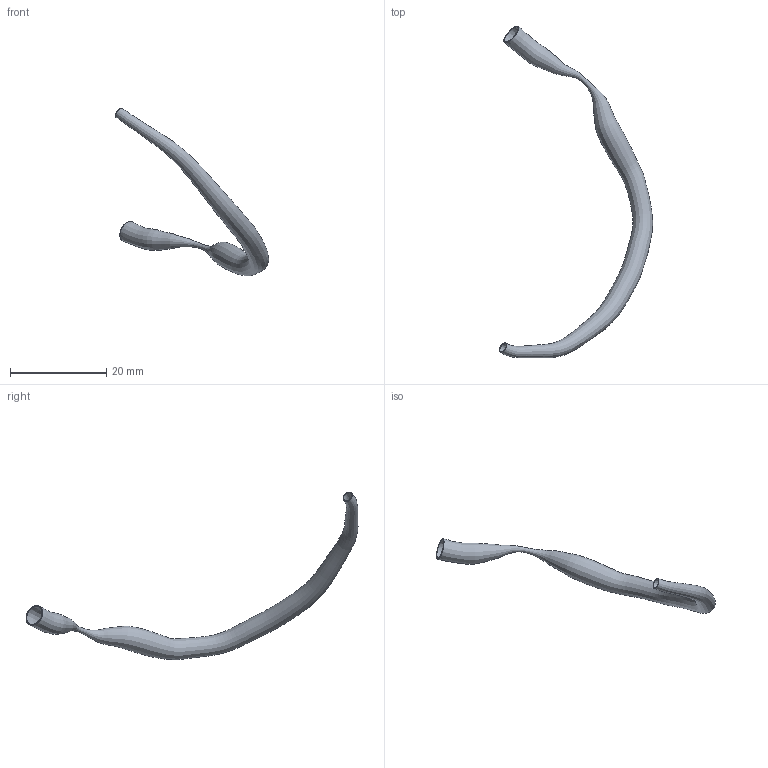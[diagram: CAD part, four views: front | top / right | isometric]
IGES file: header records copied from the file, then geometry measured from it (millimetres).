
Global section: file name: C:\Documents and Settings\Administrator\Desktop\FDA Bifurcation win\RawData_for_IGES\HRCA_Data\20000719.092552\IGES\20000719.092552.RCA.SEG.ED.igs; native system: Rhinoceros ( May 19 2006 ); preprocessor: Trout Lake IGES 012 May 19 2006; date: 100728.202227; units: centimetre
Bounding box: 31.86 x 68.94 x 34.82 mm (x, y, z)
Surface area: 2359.6 mm2 (no closed solid volume)
Topology: 0 solids, 0 shells, 4 faces, 12 edges, 8 vertices
Faces by surface type: bspline 4
